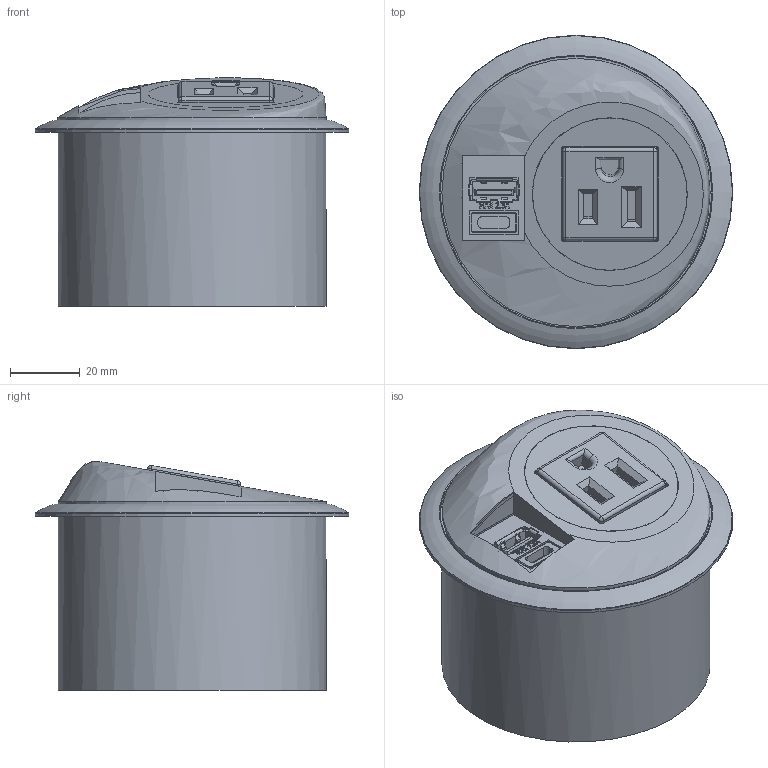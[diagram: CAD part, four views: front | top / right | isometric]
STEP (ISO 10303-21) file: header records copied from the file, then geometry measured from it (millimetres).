
FILE_DESCRIPTION((''),'2;1');
FILE_NAME('P:\Manufacturing\Autocad drawings\Inventor\blocks\pixel-block\PIXELTUF\Pixel TUF US1 A+C - block.stp','2021-01-19T08:51:07',('ScottReyner'),(''),'Autodesk Inventor 2012','Autodesk Inventor 2012','');
FILE_SCHEMA(('AUTOMOTIVE_DESIGN { 1 0 10303 214 1 1 1 1 }'));
Length unit declared in the file: inch
Products named in the file (1): Part220
Bounding box: 90 x 90 x 65.68 mm (x, y, z)
Volume: 215930.9 mm3; surface area: 49934.6 mm2
Topology: 2 solids, 2 shells, 491 faces, 1409 edges, 914 vertices
Faces by surface type: plane 335, cylinder 100, bspline 33, torus 14, cone 5, sphere 4
Full cylindrical faces by diameter (mm): 44.5 x1, 71 x1, 72 x1, 77 x2
Entity records: 16697 total; most frequent: CARTESIAN_POINT 3850, ORIENTED_EDGE 2782, DIRECTION 2469, EDGE_CURVE 1391, VECTOR 1039, LINE 1039, VERTEX_POINT 910, AXIS2_PLACEMENT_3D 715
